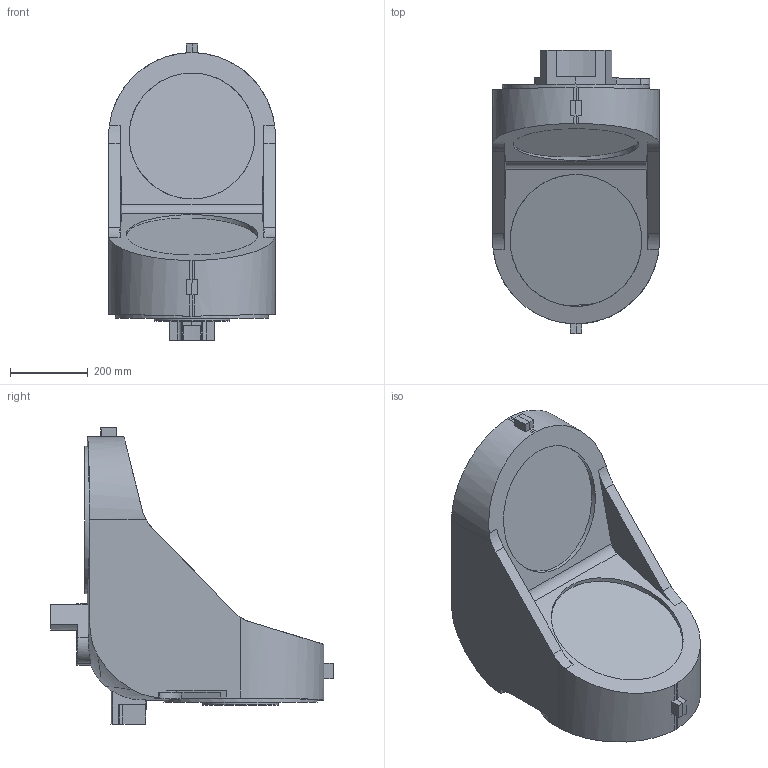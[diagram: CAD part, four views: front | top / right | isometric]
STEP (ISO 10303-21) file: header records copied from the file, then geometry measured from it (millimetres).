
FILE_DESCRIPTION (( 'STEP AP214' ), '1' );
FILE_NAME ('IRB5500-27_rev00_AXIS7_ELBOW_CAD.STEP', '2018-11-28T09:41:55', ( '' ), ( '' ), 'SwSTEP 2.0', 'SolidWorks 2016', '' );
FILE_SCHEMA (( 'AUTOMOTIVE_DESIGN' ));
Length unit declared in the file: metre
Products named in the file (1): IRB5500-27_rev00_AXIS7_ELBOW_CAD
Bounding box: 430 x 729.93 x 765 mm (x, y, z)
Volume: 65572508.6 mm3; surface area: 2209727.9 mm2
Topology: 1 solids, 2 shells, 172 faces, 464 edges, 300 vertices
Faces by surface type: plane 119, cylinder 33, bspline 12, cone 6, torus 2
Full cylindrical faces by diameter (mm): 195 x1, 325 x1, 340 x2, 380 x1, 395 x1
Entity records: 8945 total; most frequent: CARTESIAN_POINT 3128, ORIENTED_EDGE 906, DIRECTION 668, EDGE_CURVE 453, VERTEX_POINT 297, LINE 288, VECTOR 288, AXIS2_PLACEMENT_3D 190
